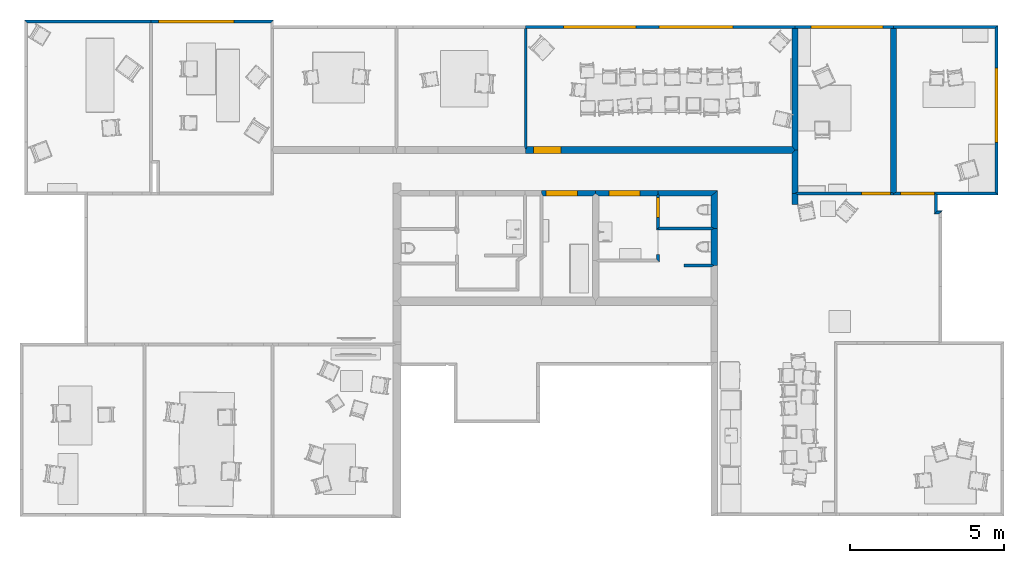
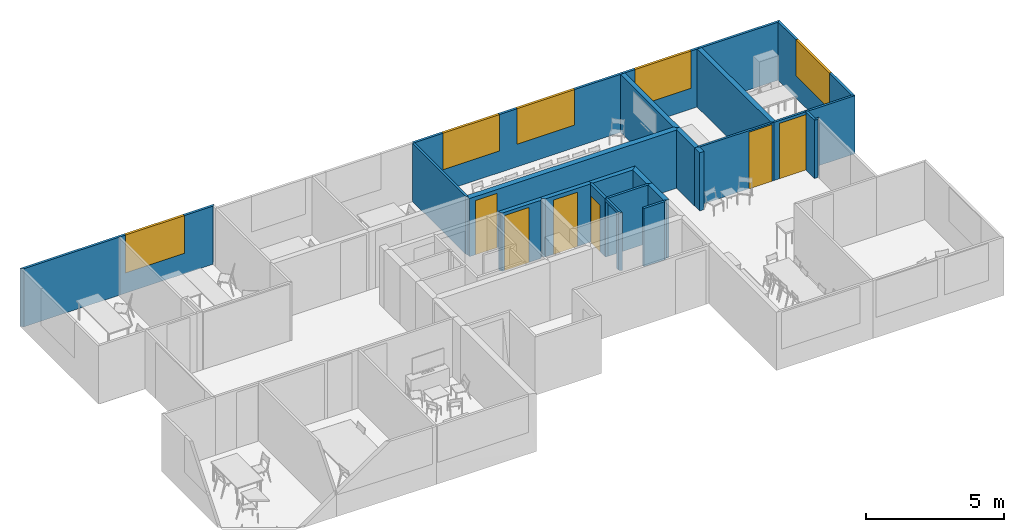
# One storey, part 4 of 25: 26 walls, 6 doors, 5 windows, 12 openings.
"""IFC2X3 building model written with IfcOpenShell, lengths in metres."""

import ifcopenshell
import ifcopenshell.guid

model = None  # the IFC model being written
_history = None  # IfcOwnerHistory: only IFC2X3 demands one
_inside = {}  # id of a spatial element -> (the spatial element, [elements in it])
_under = {}  # id of a project, library or spatial element -> (it, [spatial elements below it])
_declared = {}  # id of a project -> (the project, [libraries it declares])
_typed = {}  # id of a type object -> (the type object, [elements of that type])
_made_of = {}  # id of a material, layer set ... -> (it, [elements and type objects made of it])


def new_model(schema):
    """Start an empty IFC model of exactly this schema.

    Asked for "IFC4X3", IfcOpenShell would pick the latest addendum, in which some entities
    have other attributes; the version numbers below select the first issue.
    IFC2X3 requires an IfcOwnerHistory on every rooted entity: one is made here for all.
    """
    global model, _history
    if schema == "IFC4X3":
        model = ifcopenshell.file(schema_version=(4, 3, 0, 0))
    else:
        model = ifcopenshell.file(schema=schema)
    _inside.clear()
    _under.clear()
    _declared.clear()
    _typed.clear()
    _made_of.clear()
    _history = None
    if model.schema == "IFC2X3":
        org = make("IfcOrganization", Name="unknown")
        user = make(
            "IfcPersonAndOrganization",
            ThePerson=make("IfcPerson", FamilyName="unknown"),
            TheOrganization=org,
        )
        app = make(
            "IfcApplication",
            ApplicationDeveloper=org,
            Version="unknown",
            ApplicationFullName="unknown",
            ApplicationIdentifier="unknown",
        )
        _history = make(
            "IfcOwnerHistory",
            OwningUser=user,
            OwningApplication=app,
            ChangeAction="ADDED",
            CreationDate=0,
        )
    return model


def make(cls, **values):
    """One entity of the class cls with the attributes given. An attribute that is None is left unset."""
    return model.create_entity(
        cls, **{name: value for name, value in values.items() if value is not None}
    )


def rooted(cls, **values):
    """An entity with a GlobalId (a new one), such as an element, a storey or a relation."""
    return make(cls, GlobalId=ifcopenshell.guid.new(), OwnerHistory=_history, **values)


def si_unit(unit_type, name, prefix=None):
    """IfcSIUnit, for example si_unit("LENGTHUNIT", "METRE", prefix="MILLI")."""
    return make("IfcSIUnit", UnitType=unit_type, Prefix=prefix, Name=name)


def assignment(units):
    """IfcUnitAssignment: the units of a project."""
    return None if units is None else make("IfcUnitAssignment", Units=units)


def point(xyz):
    """IfcCartesianPoint."""
    return None if xyz is None else make("IfcCartesianPoint", Coordinates=xyz)


def direction(xyz):
    """IfcDirection."""
    return None if xyz is None else make("IfcDirection", DirectionRatios=xyz)


def frame(location, z_axis=None, x_axis=None):
    """IfcAxis2Placement3D, a coordinate frame: its origin and axes. An axis left out is left unset."""
    return make(
        "IfcAxis2Placement3D",
        Location=point(location),
        Axis=direction(z_axis),
        RefDirection=direction(x_axis),
    )


def origin_with_axes():
    """The frame at (0, 0, 0) with the z axis (0, 0, 1) and the x axis (1, 0, 0) written out."""
    return frame((0.0, 0.0, 0.0), z_axis=(0.0, 0.0, 1.0), x_axis=(1.0, 0.0, 0.0))


def place(relative_to, where):
    """IfcLocalPlacement: puts the frame where relative to a parent placement (None: the world)."""
    return make(
        "IfcLocalPlacement", PlacementRelTo=relative_to, RelativePlacement=where
    )


def context(
    kind, dimensions, precision=None, world=None, true_north=None, identifier=None
):
    """IfcGeometricRepresentationContext, for example the 3D "Model" context."""
    return make(
        "IfcGeometricRepresentationContext",
        ContextIdentifier=identifier,
        ContextType=kind,
        CoordinateSpaceDimension=dimensions,
        Precision=precision,
        WorldCoordinateSystem=world,
        TrueNorth=true_north,
    )


def subcontext(parent, identifier, kind, view, scale=None):
    """IfcGeometricRepresentationSubContext, for example "Body" below "Model"."""
    return make(
        "IfcGeometricRepresentationSubContext",
        ContextIdentifier=identifier,
        ContextType=kind,
        ParentContext=parent,
        TargetScale=scale,
        TargetView=view,
    )


def project(units=None, contexts=None):
    """IfcProject with its units and contexts."""
    return rooted(
        "IfcProject",
        Name="project",
        RepresentationContexts=contexts,
        UnitsInContext=assignment(units),
    )


def spatial(cls, under=None, at=None, **own):
    """A site, building, storey or space (cls), placed at a placement, below another one or the project."""
    s = rooted(cls, ObjectPlacement=at, **own)
    if under is not None:
        _under.setdefault(under.id(), (under, []))[1].append(s)
    return s


def polyline(points):
    """IfcPolyline through the points."""
    return make("IfcPolyline", Points=[point(p) for p in points])


def outline(outer, holes=None, kind="AREA"):
    """IfcArbitraryClosedProfileDef: a profile drawn as a closed curve; with holes, ...WithVoids."""
    if holes is None:
        return make("IfcArbitraryClosedProfileDef", ProfileType=kind, OuterCurve=outer)
    return make(
        "IfcArbitraryProfileDefWithVoids",
        ProfileType=kind,
        OuterCurve=outer,
        InnerCurves=holes,
    )


def extrude(swept, where, along, depth):
    """IfcExtrudedAreaSolid: the profile swept, set in the frame where, extruded along a direction by depth."""
    return make(
        "IfcExtrudedAreaSolid",
        SweptArea=swept,
        Position=where,
        ExtrudedDirection=direction(along),
        Depth=depth,
    )


def shape(context_of_items, identifier, shape_type, items):
    """IfcShapeRepresentation: the items that make up one representation, for example the "Body"."""
    return make(
        "IfcShapeRepresentation",
        ContextOfItems=context_of_items,
        RepresentationIdentifier=identifier,
        RepresentationType=shape_type,
        Items=items,
    )


def made_of(thing, what):
    """Note that an element or type object is made of a material, layer set ...; save() writes the relation."""
    if what is not None:
        _made_of.setdefault(what.id(), (what, []))[1].append(thing)
    return thing


def type_object(cls, material=None, **own):
    """A type object (cls), such as IfcWallType, which elements share."""
    return made_of(rooted(cls, **own), material)


def element(
    cls,
    number,
    at=None,
    inside=None,
    cuts=None,
    type_object=None,
    material=None,
    context=None,
    identifier="Body",
    shape_type=None,
    held_by="IfcProductDefinitionShape",
    body=None,
    shapes=None,
    **own,
):
    """One element of the class cls, such as IfcWall. Its Tag is "e" and its number.

    at: its placement. inside: the storey or other place that contains it. cuts: it is an
    opening in that element (IfcRelVoidsElement). A single representation is given by context,
    identifier, shape_type and body (its items); several are given by shapes. held_by: the class
    of the entity that holds the representations. save() writes the other relations.
    """
    e = rooted(cls, Tag="e%d" % number, ObjectPlacement=at, **own)
    if body is not None:
        shapes = [shape(context, identifier, shape_type, body)]
    if shapes is not None:
        e.Representation = make(held_by, Representations=shapes)
    if inside is not None:
        _inside.setdefault(inside.id(), (inside, []))[1].append(e)
    if cuts is not None:
        rooted(
            "IfcRelVoidsElement", RelatingBuildingElement=cuts, RelatedOpeningElement=e
        )
    if type_object is not None:
        _typed.setdefault(type_object.id(), (type_object, []))[1].append(e)
    return made_of(e, material)


def fill(opening, filler):
    """IfcRelFillsElement: the door or window that sits in an opening."""
    return rooted(
        "IfcRelFillsElement",
        RelatingOpeningElement=opening,
        RelatedBuildingElement=filler,
    )


def aggregate(whole, parts):
    """IfcRelAggregates: a whole, such as a stair, and the parts it consists of."""
    return rooted("IfcRelAggregates", RelatingObject=whole, RelatedObjects=parts)


def save(model, path):
    """Write the relations noted so far, then the file.

    IfcRelAggregates (storeys below a building ...), IfcRelContainedInSpatialStructure (elements
    in a storey), IfcRelDefinesByType, IfcRelAssociatesMaterial and IfcRelDeclares: one each for
    every whole, place, type object, material and project.
    """
    for whole, parts in _under.values():
        aggregate(whole, parts)
    for where, things in _inside.values():
        rooted(
            "IfcRelContainedInSpatialStructure",
            RelatedElements=things,
            RelatingStructure=where,
        )
    for kind, things in _typed.values():
        rooted("IfcRelDefinesByType", RelatedObjects=things, RelatingType=kind)
    for what, things in _made_of.values():
        rooted("IfcRelAssociatesMaterial", RelatedObjects=things, RelatingMaterial=what)
    for by, libraries in _declared.values():
        rooted("IfcRelDeclares", RelatingContext=by, RelatedDefinitions=libraries)
    model.write(path)


model = new_model("IFC2X3")

# Units and contexts
model_context = context("Model", 3, precision=1e-05, world=origin_with_axes(), true_north=direction((0.996, -0.093, 0.0)))
body_context = subcontext(model_context, "Body", "Model", "MODEL_VIEW")
ifc_project = project(units=[si_unit("LENGTHUNIT", "METRE"), si_unit("AREAUNIT", "SQUARE_METRE")], contexts=[model_context])

# Site, building, storey
site_placement = place(None, origin_with_axes())
site = spatial("IfcSite", under=ifc_project, at=site_placement, Name="Site", CompositionType="ELEMENT")
building_placement = place(site_placement, origin_with_axes())
building = spatial("IfcBuilding", under=site, at=building_placement, Name="Building", CompositionType="ELEMENT")
storey_placement = place(building_placement, frame((0.0, 0.0, 0.0500001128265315), z_axis=(0.0, 0.0, 1.0), x_axis=(1.0, 0.0, 0.0)))
storey = spatial("IfcBuildingStorey", under=building, at=storey_placement, Name="Story 0", CompositionType="ELEMENT", Elevation=0.0499999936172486)

# Wall, opening
wall_type_1 = type_object("IfcWallType", PredefinedType="STANDARD")
wall_1_placement = place(storey_placement, frame((18.5151849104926, 4.59033341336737, 0.0), z_axis=(0.0, 0.0, 1.0), x_axis=(1.0, 0.0, 0.0)))
wall_1 = element("IfcWallStandardCase", 1, at=wall_1_placement, inside=storey, type_object=wall_type_1, Name="Wall", context=body_context, shape_type="SweptSolid", body=[
    extrude(outline(polyline([(0.0, 0.0), (0.0499999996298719, 8.57389803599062e-09), (0.100000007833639, -0.0499999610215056), (0.100000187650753, -1.0986311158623), (1.71243240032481e-07, -0.998631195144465), (0.0, 0.0)])), origin_with_axes(), (0.0, 0.0, 1.0), 2.5729394),
])
opening_1_placement = place(wall_1_placement, frame((0.0, -0.049999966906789, 0.0), z_axis=(0.0, 0.0, 1.0), x_axis=(0.0, -1.00000000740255, 0.0)))
element("IfcOpeningElement", 2, at=opening_1_placement, cuts=wall_1, Name="OpeningElement", ObjectType="OPENING", context=body_context, shape_type="SweptSolid", body=[
    extrude(outline(polyline([(-2.19644113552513e-17, 0.0), (0.804700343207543, 0.0), (0.804700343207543, 2.45198288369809), (-2.19644113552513e-17, 2.45198288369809), (-2.19644113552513e-17, 0.0)])), frame((0.0, 0.0, 0.0), z_axis=(0.0, -1.0, 0.0), x_axis=(1.0, 0.0, 0.0)), (0.0, 0.0, -1.0), 0.100099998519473),
])

# Walls
wall_type_2 = type_object("IfcWallType", PredefinedType="STANDARD")
wall_2_placement = place(storey_placement, frame((20.2917804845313, 3.42640184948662, 0.0), z_axis=(0.0, 0.0, 1.0), x_axis=(1.0, 0.0, 0.0)))
element("IfcWallStandardCase", 3, at=wall_2_placement, inside=storey, type_object=wall_type_2, Name="Wall", context=body_context, shape_type="SweptSolid", body=[
    extrude(outline(polyline([(0.0, 0.0), (2.38406105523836e-07, 1.11393260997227), (0.101291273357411, 1.16393267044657), (0.202582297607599, 1.16393264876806), (0.202582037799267, -0.0500001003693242), (0.10129101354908, -0.0500000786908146), (0.0, 0.0)])), origin_with_axes(), (0.0, 0.0, 1.0), 2.5729394),
])
wall_type_3 = type_object("IfcWallType", PredefinedType="STANDARD")
wall_3_placement = place(storey_placement, frame((19.4136194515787, 3.32640253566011, 0.0), z_axis=(0.0, 0.0, 1.0), x_axis=(1.0, 0.0, 0.0)))
element("IfcWallStandardCase", 4, at=wall_3_placement, inside=storey, type_object=wall_type_3, Name="Wall", context=body_context, shape_type="SweptSolid", body=[
    extrude(outline(polyline([(0.0, 0.0), (7.80532545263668e-08, 0.0999999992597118), (0.878161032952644, 0.0999993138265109), (0.979452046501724, 0.0499992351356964), (0.878161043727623, -6.85433266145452e-07), (0.0, 0.0)])), origin_with_axes(), (0.0, 0.0, 1.0), 2.5729394),
])
wall_type_4 = type_object("IfcWallType", PredefinedType="STANDARD")
wall_4_placement = place(storey_placement, frame((18.6151849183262, 4.54033345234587, 0.0), z_axis=(0.0, 0.0, 1.0), x_axis=(1.0, 0.0, 0.0)))
element("IfcWallStandardCase", 5, at=wall_4_placement, inside=storey, type_object=wall_type_4, Name="Wall", context=body_context, shape_type="SweptSolid", body=[
    extrude(outline(polyline([(0.0, 0.0), (-0.0500000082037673, 0.0499999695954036), (8.39943226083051e-10, 0.099999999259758), (1.67659578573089, 0.100001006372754), (1.77788683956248, 0.050001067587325), (1.67659580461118, 1.0071130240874e-06), (0.0, 0.0)])), origin_with_axes(), (0.0, 0.0, 1.0), 2.5729394),
])
wall_type_5 = type_object("IfcWallType", PredefinedType="STANDARD")
wall_5_placement = place(storey_placement, frame((22.9254662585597, 5.36495264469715, 0.0), z_axis=(0.0, 0.0, 1.0), x_axis=(1.0, 0.0, 0.0)))
element("IfcWallStandardCase", 6, at=wall_5_placement, inside=storey, type_object=wall_type_5, Name="Wall", context=body_context, shape_type="SweptSolid", body=[
    extrude(outline(polyline([(0.0, 0.0), (1.45613221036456e-07, 0.363935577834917), (0.094740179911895, 0.363935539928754), (0.189480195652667, 0.31755322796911), (0.189480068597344, -7.58123270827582e-08), (0.0, 0.0)])), origin_with_axes(), (0.0, 0.0, 1.0), 2.5729394),
])

# Wall, opening, door
wall_type_6 = type_object("IfcWallType", PredefinedType="STANDARD")
wall_6_placement = place(storey_placement, frame((14.258046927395, 7.02928678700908, 0.0), z_axis=(0.0, 0.0, 1.0), x_axis=(1.0, 0.0, 0.0)))
wall_6 = element("IfcWallStandardCase", 7, at=wall_6_placement, inside=storey, type_object=wall_type_6, Name="Wall", context=body_context, shape_type="SweptSolid", body=[
    extrude(outline(polyline([(0.0, 0.0), (-4.16177954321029e-08, 0.114025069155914), (0.0463822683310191, 0.228050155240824), (8.66741881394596, 0.228053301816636), (8.76215888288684, 0.114028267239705), (8.66741889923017, 3.16350481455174e-06), (0.0, 0.0)])), origin_with_axes(), (0.0, 0.0, 1.0), 2.5729394),
])
opening_2_placement = place(wall_6_placement, frame((0.25352738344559, 0.0, 0.0), z_axis=(0.0, 0.0, 1.0), x_axis=(1.00000000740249, 0.0, 0.0)))
opening_2 = element("IfcOpeningElement", 8, at=opening_2_placement, cuts=wall_6, Name="OpeningElement", ObjectType="OPENING", context=body_context, shape_type="SweptSolid", body=[
    extrude(outline(polyline([(0.0, 0.0), (0.890961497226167, 0.0), (0.890961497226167, 2.40103436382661), (0.0, 2.40103436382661), (0.0, 0.0)])), frame((0.0, 0.0, 0.0), z_axis=(0.0, -1.0, 0.0), x_axis=(1.0, 0.0, 0.0)), (0.0, 0.0, -1.0), 0.228150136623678),
])
door_style_1 = type_object("IfcDoorStyle", Name="73a46bbc-a436-444a-8fb2-c920c5e2e9b5", ConstructionType="NOTDEFINED", OperationType="NOTDEFINED", ParameterTakesPrecedence=False, Sizeable=False)
door_1_placement = place(opening_2_placement, origin_with_axes())
door_1 = element("IfcDoor", 9, at=door_1_placement, inside=storey, type_object=door_style_1, Name="Door", OverallHeight=2.4010349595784, OverallWidth=0.890961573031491, context=body_context, shape_type="SweptSolid", body=[
    extrude(outline(polyline([(0.0, 0.0), (-0.890961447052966, 0.0), (-0.890961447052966, 2.40103439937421), (0.0, 2.40103439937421), (0.0, 0.0)])), frame((0.0, 0.228050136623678, 0.0), z_axis=(0.0, 1.0, 0.0), x_axis=(-1.0, 0.0, 0.0)), (0.0, 0.0, -1.0), 0.228050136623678),
])
fill(opening_2, door_1)

# Wall
wall_type_7 = type_object("IfcWallType", PredefinedType="STANDARD")
wall_7_placement = place(storey_placement, frame((20.2917807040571, 4.64033445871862, 0.0), z_axis=(0.0, 0.0, 1.0), x_axis=(1.0, 0.0, 0.0)))
element("IfcWallStandardCase", 10, at=wall_7_placement, inside=storey, type_object=wall_type_7, Name="Wall", context=body_context, shape_type="SweptSolid", body=[
    extrude(outline(polyline([(0.0, 0.0), (-5.91764596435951e-07, 1.00022926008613), (0.202581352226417, 1.17687616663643), (0.202582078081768, -0.0499998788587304), (0.101291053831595, -0.0499999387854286), (0.0, 0.0)])), origin_with_axes(), (0.0, 0.0, 1.0), 2.5729394),
])

# Wall, opening, door
wall_type_8 = type_object("IfcWallType", PredefinedType="STANDARD")
wall_8_placement = place(storey_placement, frame((23.1149464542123, 5.68250587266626, 0.0), z_axis=(0.0, 0.0, 1.0), x_axis=(1.0, 0.0, 0.0)))
wall_8 = element("IfcWallStandardCase", 11, at=wall_8_placement, inside=storey, type_object=wall_type_8, Name="Wall", context=body_context, shape_type="SweptSolid", body=[
    extrude(outline(polyline([(0.0, 0.0), (-0.0947400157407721, 0.0463823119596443), (-2.04190442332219e-09, 0.0927646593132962), (3.01657455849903, 0.0927652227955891), (3.11411432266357, 0.0463829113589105), (3.11411433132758, 5.8170225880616e-07), (0.0, 0.0)])), origin_with_axes(), (0.0, 0.0, 1.0), 2.5729394),
])
opening_3_placement = place(wall_8_placement, frame((2.06755146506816, 0.0, 0.0), z_axis=(0.0, 0.0, 1.0), x_axis=(1.00000000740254, 0.0, 0.0)))
opening_3 = element("IfcOpeningElement", 12, at=opening_3_placement, cuts=wall_8, Name="OpeningElement", ObjectType="OPENING", context=body_context, shape_type="SweptSolid", body=[
    extrude(outline(polyline([(0.0, 0.0), (0.949021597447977, 0.0), (0.949021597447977, 2.50352182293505), (0.0, 2.50352182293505), (0.0, 0.0)])), frame((0.0, 0.0, 0.0), z_axis=(0.0, -1.0, 0.0), x_axis=(1.0, 0.0, 0.0)), (0.0, 0.0, -1.0), 0.0928646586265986),
])
door_style_2 = type_object("IfcDoorStyle", Name="14c6a3be-2a06-480f-be3a-189aefb77c64", ConstructionType="NOTDEFINED", OperationType="NOTDEFINED", ParameterTakesPrecedence=False, Sizeable=False)
door_2_placement = place(opening_3_placement, origin_with_axes())
door_2 = element("IfcDoor", 13, at=door_2_placement, inside=storey, type_object=door_style_2, Name="Door", OverallHeight=2.50352186, OverallWidth=0.994197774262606, context=body_context, shape_type="SweptSolid", body=[
    extrude(outline(polyline([(0.0, 0.0), (-0.949021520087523, 0.0), (-0.949021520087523, 2.50352186), (0.0, 2.50352186), (0.0, 0.0)])), frame((0.0, 0.0927646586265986, 0.0), z_axis=(0.0, 1.0, 0.0), x_axis=(-1.0, 0.0, 0.0)), (0.0, 0.0, -1.0), 0.0927646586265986),
])
fill(opening_3, door_2)

wall_type_9 = type_object("IfcWallType", PredefinedType="STANDARD")
wall_9_placement = place(storey_placement, frame((14.8254874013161, 5.64056243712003, 0.0), z_axis=(0.0, 0.0, 1.0), x_axis=(1.0, 0.0, 0.0)))
wall_9 = element("IfcWallStandardCase", 14, at=wall_9_placement, inside=storey, type_object=wall_type_9, Name="Wall", context=body_context, shape_type="SweptSolid", body=[
    extrude(outline(polyline([(0.0, 0.0), (-0.0500000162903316, 0.088323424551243), (-0.0500000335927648, 0.176646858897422), (1.71128446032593, 0.176647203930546), (1.71128447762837, 0.0883237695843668), (1.61246493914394, 3.15879583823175e-07), (0.0, 0.0)])), origin_with_axes(), (0.0, 0.0, 1.0), 2.5729394),
])
opening_4_placement = place(wall_9_placement, frame((1.1256719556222, 0.176647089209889, 0.0), z_axis=(0.0, 0.0, 1.0), x_axis=(-1.00000000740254, 0.0, 0.0)))
opening_4 = element("IfcOpeningElement", 15, at=opening_4_placement, cuts=wall_9, Name="OpeningElement", ObjectType="OPENING", context=body_context, shape_type="SweptSolid", body=[
    extrude(outline(polyline([(0.0, 0.0), (1.03850236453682, 0.0), (1.03850236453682, 2.43175540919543), (0.0, 2.43175540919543), (0.0, 0.0)])), frame((0.0, 0.0, 0.0), z_axis=(0.0, -1.0, 0.0), x_axis=(1.0, 0.0, 0.0)), (0.0, 0.0, -1.0), 0.176746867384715),
])
door_style_3 = type_object("IfcDoorStyle", Name="3007114f-b811-4b10-a052-5c01ac19c1e7", ConstructionType="NOTDEFINED", OperationType="NOTDEFINED", ParameterTakesPrecedence=False, Sizeable=False)
door_3_placement = place(opening_4_placement, origin_with_axes())
door_3 = element("IfcDoor", 16, at=door_3_placement, inside=storey, type_object=door_style_3, Name="Door", OverallHeight=2.43175610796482, OverallWidth=1.03850250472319, context=body_context, shape_type="SweptSolid", body=[
    extrude(outline(polyline([(0.0, 0.0), (-1.03850229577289, 0.0), (-1.03850229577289, 2.43175544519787), (0.0, 2.43175544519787), (0.0, 0.0)])), frame((0.0, 0.176646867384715, 0.0), z_axis=(0.0, 1.0, 0.0), x_axis=(-1.0, 0.0, 0.0)), (0.0, 0.0, -1.0), 0.176646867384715),
])
fill(opening_4, door_3)

wall_type_10 = type_object("IfcWallType", PredefinedType="STANDARD")
wall_10_placement = place(storey_placement, frame((26.2290607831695, 5.68250645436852, 0.0), z_axis=(0.0, 0.0, 1.0), x_axis=(1.0, 0.0, 0.0)))
wall_10 = element("IfcWallStandardCase", 17, at=wall_10_placement, inside=storey, type_object=wall_type_10, Name="Wall", context=body_context, shape_type="SweptSolid", body=[
    extrude(outline(polyline([(0.0, 0.0), (-6.2935470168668e-09, 0.0463823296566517), (0.0975397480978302, 0.0927646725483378), (1.32923605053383, 0.092764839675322), (1.32923605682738, 0.0463825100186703), (1.329236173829, 1.80362043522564e-07), (0.0, 0.0)])), origin_with_axes(), (0.0, 0.0, 1.0), 2.5729394),
])
opening_5_placement = place(wall_10_placement, frame((0.218182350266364, 0.0, 0.0), z_axis=(0.0, 0.0, 1.0), x_axis=(1.00000000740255, 0.0, 0.0)))
opening_5 = element("IfcOpeningElement", 18, at=opening_5_placement, cuts=wall_10, Name="OpeningElement", ObjectType="OPENING", context=body_context, shape_type="SweptSolid", body=[
    extrude(outline(polyline([(0.0, 0.0), (1.11105350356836, 0.0), (1.11105350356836, 2.45178428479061), (0.0, 2.45178428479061), (0.0, 0.0)])), frame((0.0, 0.0, 0.0), z_axis=(0.0, -1.0, 0.0), x_axis=(1.0, 0.0, 0.0)), (0.0, 0.0, -1.0), 0.0928646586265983),
])
door_style_4 = type_object("IfcDoorStyle", Name="5135fc8b-d548-4c52-a799-416d36f16f8e", ConstructionType="NOTDEFINED", OperationType="NOTDEFINED", ParameterTakesPrecedence=False, Sizeable=False)
door_4_placement = place(opening_5_placement, origin_with_axes())
door_4 = element("IfcDoor", 19, at=door_4_placement, inside=storey, type_object=door_style_4, Name="Door", OverallHeight=2.45178514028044, OverallWidth=1.11105361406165, context=body_context, shape_type="SweptSolid", body=[
    extrude(outline(polyline([(0.0, 0.0), (-1.1110534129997, 0.0), (-1.1110534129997, 2.45178432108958), (0.0, 2.45178432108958), (0.0, 0.0)])), frame((0.0, 0.0927646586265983, 0.0), z_axis=(0.0, 1.0, 0.0), x_axis=(-1.0, 0.0, 0.0)), (0.0, 0.0, -1.0), 0.0927646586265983),
])
fill(opening_5, door_4)

# Wall
wall_type_11 = type_object("IfcWallType", PredefinedType="STANDARD")
wall_11_placement = place(storey_placement, frame((22.9254664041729, 5.72888814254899, 0.0), z_axis=(0.0, 0.0, 1.0), x_axis=(1.0, 0.0, 0.0)))
element("IfcWallStandardCase", 20, at=wall_11_placement, inside=storey, type_object=wall_type_11, Name="Wall", context=body_context, shape_type="SweptSolid", body=[
    extrude(outline(polyline([(0.0, 0.0), (-5.775477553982e-07, 1.3004018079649), (0.0947394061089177, 1.41442691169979), (0.189479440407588, 1.41442695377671), (0.189480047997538, 0.0463823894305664), (0.0947400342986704, 4.20769143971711e-08), (0.0, 0.0)])), origin_with_axes(), (0.0, 0.0, 1.0), 2.5729394),
])

# Wall, opening, door
wall_type_12 = type_object("IfcWallType", PredefinedType="STANDARD")
wall_12_placement = place(storey_placement, frame((16.635591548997, 5.6405628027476, 0.0), z_axis=(0.0, 0.0, 1.0), x_axis=(1.0, 0.0, 0.0)))
wall_12 = element("IfcWallStandardCase", 21, at=wall_12_placement, inside=storey, type_object=wall_type_12, Name="Wall", context=body_context, shape_type="SweptSolid", body=[
    extrude(outline(polyline([(0.0, 0.0), (-0.0988196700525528, 0.0883234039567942), (-0.0988196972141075, 0.176646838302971), (1.92959354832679, 0.176647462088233), (1.92959357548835, 0.0883240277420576), (1.87959355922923, 5.78019674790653e-07), (0.0, 0.0)])), origin_with_axes(), (0.0, 0.0, 1.0), 2.5729394),
])
opening_6_placement = place(wall_12_placement, frame((1.34609444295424, 0.176647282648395, 0.0), z_axis=(0.0, 0.0, 1.0), x_axis=(-1.00000000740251, 0.0, 0.0)))
opening_6 = element("IfcOpeningElement", 22, at=opening_6_placement, cuts=wall_12, Name="OpeningElement", ObjectType="OPENING", context=body_context, shape_type="SweptSolid", body=[
    extrude(outline(polyline([(0.0, 0.0), (1.01151418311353, 0.0), (1.01151418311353, 2.39816939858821), (0.0, 2.39816939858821), (0.0, 0.0)])), frame((0.0, 0.0, 0.0), z_axis=(0.0, -1.0, 0.0), x_axis=(1.0, 0.0, 0.0)), (0.0, 0.0, -1.0), 0.176746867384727),
])
door_style_5 = type_object("IfcDoorStyle", Name="8d5ac8cc-9b1b-4fde-b64d-d58136c09b59", ConstructionType="NOTDEFINED", OperationType="NOTDEFINED", ParameterTakesPrecedence=False, Sizeable=False)
door_5_placement = place(opening_6_placement, origin_with_axes())
door_5 = element("IfcDoor", 23, at=door_5_placement, inside=storey, type_object=door_style_5, Name="Door", OverallHeight=2.39817009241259, OverallWidth=1.01151431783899, context=body_context, shape_type="SweptSolid", body=[
    extrude(outline(polyline([(0.0, 0.0), (-1.0115141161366, 0.0), (-1.0115141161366, 2.3981694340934), (0.0, 2.3981694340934), (0.0, 0.0)])), frame((0.0, 0.176646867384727, 0.0), z_axis=(0.0, 1.0, 0.0), x_axis=(-1.0, 0.0, 0.0)), (0.0, 0.0, -1.0), 0.176646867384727),
])
fill(opening_6, door_5)

# Walls
wall_type_13 = type_object("IfcWallType", PredefinedType="STANDARD")
wall_13_placement = place(storey_placement, frame((18.615185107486, 5.64056340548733, 0.0), z_axis=(0.0, 0.0, 1.0), x_axis=(1.0, 0.0, 0.0)))
element("IfcWallStandardCase", 24, at=wall_13_placement, inside=storey, type_object=wall_type_13, Name="Wall", context=body_context, shape_type="SweptSolid", body=[
    extrude(outline(polyline([(0.0, 0.0), (-0.0499999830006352, 0.0883234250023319), (-0.0499999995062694, 0.176646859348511), (1.87917694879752, 0.17664721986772), (1.6765950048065, 3.13317422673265e-07), (0.0, 0.0)])), origin_with_axes(), (0.0, 0.0, 1.0), 2.5729394),
])
wall_type_14 = type_object("IfcWallType", PredefinedType="STANDARD")
wall_14_placement = place(storey_placement, frame((27.5582985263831, 5.06036386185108, 0.0), z_axis=(0.0, 0.0, 1.0), x_axis=(1.0, 0.0, 0.0)))
element("IfcWallStandardCase", 25, at=wall_14_placement, inside=storey, type_object=wall_type_14, Name="Wall", context=body_context, shape_type="SweptSolid", body=[
    extrude(outline(polyline([(0.0, 0.0), (0.0999997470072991, 0.0999992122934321), (0.245564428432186, 0.0999980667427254), (0.145564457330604, -1.145548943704e-06), (0.0, 0.0)])), origin_with_axes(), (0.0, 0.0, 1.0), 2.5729394),
])
wall_type_15 = type_object("IfcWallType", PredefinedType="STANDARD")
wall_15_placement = place(storey_placement, frame((27.5582985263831, 5.06036386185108, 0.0), z_axis=(0.0, 0.0, 1.0), x_axis=(1.0, 0.0, 0.0)))
element("IfcWallStandardCase", 26, at=wall_15_placement, inside=storey, type_object=wall_type_15, Name="Wall", context=body_context, shape_type="SweptSolid", body=[
    extrude(outline(polyline([(0.0, 0.0), (-1.56938467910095e-06, 0.622142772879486), (-1.68638630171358e-06, 0.668525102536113), (0.0999984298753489, 0.622142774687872), (0.0999997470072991, 0.0999992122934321), (0.0, 0.0)])), origin_with_axes(), (0.0, 0.0, 1.0), 2.5729394),
])

# Wall, opening, door
wall_type_16 = type_object("IfcWallType", PredefinedType="STANDARD")
wall_16_placement = place(storey_placement, frame((18.5151849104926, 4.5903334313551, 0.0), z_axis=(0.0, 0.0, 1.0), x_axis=(1.0, 0.0, 0.0)))
wall_16 = element("IfcWallStandardCase", 27, at=wall_16_placement, inside=storey, type_object=wall_type_16, Name="Wall", context=body_context, shape_type="SweptSolid", body=[
    extrude(outline(polyline([(0.0, 0.0), (1.97733676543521e-07, 1.05022994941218), (0.0500002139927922, 1.13855339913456), (0.100000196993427, 1.05022997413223), (0.100000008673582, 0.0500000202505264), (0.0499999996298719, -9.41382793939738e-09), (0.0, 0.0)])), origin_with_axes(), (0.0, 0.0, 1.0), 2.5729394),
])
opening_7_placement = place(wall_16_placement, frame((0.0, 1.00794408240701, 0.0), z_axis=(0.0, 0.0, 1.0), x_axis=(0.0, -1.00000000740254, 0.0)))
opening_7 = element("IfcOpeningElement", 28, at=opening_7_placement, cuts=wall_16, Name="OpeningElement", ObjectType="OPENING", context=body_context, shape_type="SweptSolid", body=[
    extrude(outline(polyline([(-2.49185234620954e-16, 0.0), (0.657400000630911, 0.0), (0.657400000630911, 2.05067081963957), (-2.49185234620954e-16, 2.05067081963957), (-2.49185234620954e-16, 0.0)])), frame((0.0, 0.0, 0.0), z_axis=(0.0, -1.0, 0.0), x_axis=(1.0, 0.0, 0.0)), (0.0, 0.0, -1.0), 0.100099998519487),
])
door_style_6 = type_object("IfcDoorStyle", Name="a4bd18f5-f418-4394-9a0f-b45b4777379e", ConstructionType="NOTDEFINED", OperationType="NOTDEFINED", ParameterTakesPrecedence=False, Sizeable=False)
door_6_placement = place(opening_7_placement, origin_with_axes())
door_6 = element("IfcDoor", 29, at=door_6_placement, inside=storey, type_object=door_style_6, Name="Door", OverallHeight=2.05067085, OverallWidth=0.657399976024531, context=body_context, shape_type="SweptSolid", body=[
    extrude(outline(polyline([(-4.34173842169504e-16, 0.0), (-0.657400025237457, 0.0), (-0.657400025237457, 2.05067085), (-4.34173842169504e-16, 2.05067085), (-4.34173842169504e-16, 0.0)])), frame((0.0, 0.0999999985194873, 0.0), z_axis=(0.0, 1.0, 0.0), x_axis=(-1.0, 0.0, 0.0)), (0.0, 0.0, -1.0), 0.0999999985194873),
])
fill(opening_7, door_6)

# Wall, opening, window
wall_type_17 = type_object("IfcWallType", PredefinedType="STANDARD")
wall_17_placement = place(storey_placement, frame((2.11040103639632, 11.2697735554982, 0.0), z_axis=(0.0, 0.0, 1.0), x_axis=(1.0, 0.0, 0.0)))
wall_17 = element("IfcWallStandardCase", 30, at=wall_17_placement, inside=storey, type_object=wall_type_17, Name="Wall", context=body_context, shape_type="SweptSolid", body=[
    extrude(outline(polyline([(0.0, 0.0), (-0.0463823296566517, -8.69257021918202e-09), (-0.0463823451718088, 0.0999999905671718), (3.94710436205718, 0.100000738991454), (3.85411043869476, 7.22303603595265e-07), (0.0, 0.0)])), origin_with_axes(), (0.0, 0.0, 1.0), 2.5729394),
])
opening_8_placement = place(wall_17_placement, frame((0.204486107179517, 0.0, 0.901117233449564), z_axis=(0.0, 0.0, 1.0), x_axis=(1.00000000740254, 0.0, 0.0)))
opening_8 = element("IfcOpeningElement", 31, at=opening_8_placement, cuts=wall_17, Name="OpeningElement", ObjectType="OPENING", context=body_context, shape_type="SweptSolid", body=[
    extrude(outline(polyline([(0.0, 0.0), (2.45018399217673, 0.0), (2.45018399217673, 1.67182200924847), (0.0, 1.67182200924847), (0.0, 0.0)])), frame((0.0, 0.0, 0.0), z_axis=(0.0, -1.0, 0.0), x_axis=(1.0, 0.0, 0.0)), (0.0, 0.0, -1.0), 0.100099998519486),
])
window_style_1 = type_object("IfcWindowStyle", Name="d3fddfdb-2f21-4f91-8887-1419ba0eb38c", ConstructionType="ALUMINIUM", OperationType="SINGLE_PANEL", ParameterTakesPrecedence=True, Sizeable=True)
window_1_placement = place(opening_8_placement, origin_with_axes())
window_1 = element("IfcWindow", 32, at=window_1_placement, inside=storey, type_object=window_style_1, Name="Window", OverallHeight=1.5, OverallWidth=0.5, context=body_context, shape_type="SweptSolid", body=[
    extrude(outline(polyline([(0.0, 0.0), (-2.4501838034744, 0.0), (-2.4501838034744, 1.671822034), (0.0, 1.671822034), (0.0, 0.0)])), frame((0.0, 0.0999999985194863, 0.0), z_axis=(0.0, 1.0, 0.0), x_axis=(-1.0, 0.0, 0.0)), (0.0, 0.0, -1.0), 0.0999999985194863),
])
fill(opening_8, window_1)

# Walls
wall_type_18 = type_object("IfcWallType", PredefinedType="STANDARD")
wall_18_placement = place(storey_placement, frame((26.3265999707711, 11.0953670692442, 0.0), z_axis=(0.0, 0.0, 1.0), x_axis=(1.0, 0.0, 0.0)))
element("IfcWallStandardCase", 33, at=wall_18_placement, inside=storey, type_object=wall_type_18, Name="Wall", context=body_context, shape_type="SweptSolid", body=[
    extrude(outline(polyline([(0.0, 0.0), (-0.0975397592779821, -4.84280189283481e-08), (-0.0975397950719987, 0.0999999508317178), (3.29669341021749, 0.100001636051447), (3.19669347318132, 1.58714214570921e-06), (0.0, 0.0)])), origin_with_axes(), (0.0, 0.0, 1.0), 2.5729394),
])
wall_type_19 = type_object("IfcWallType", PredefinedType="STANDARD")
wall_19_placement = place(storey_placement, frame((27.6582969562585, 5.68250663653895, 0.0), z_axis=(0.0, 0.0, 1.0), x_axis=(1.0, 0.0, 0.0)))
element("IfcWallStandardCase", 34, at=wall_19_placement, inside=storey, type_object=wall_type_19, Name="Wall", context=body_context, shape_type="SweptSolid", body=[
    extrude(outline(polyline([(0.0, 0.0), (-0.100000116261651, 0.0463823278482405), (-0.100000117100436, 0.0927646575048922), (1.86499979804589, 0.0927646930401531), (1.96499985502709, 3.55352600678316e-08), (0.0, 0.0)])), origin_with_axes(), (0.0, 0.0, 1.0), 2.5729394),
])
wall_type_20 = type_object("IfcWallType", PredefinedType="STANDARD")
wall_20_placement = place(storey_placement, frame((26.1315204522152, 11.0953669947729, 0.0), z_axis=(0.0, 0.0, 1.0), x_axis=(1.0, 0.0, 0.0)))
element("IfcWallStandardCase", 35, at=wall_20_placement, inside=storey, type_object=wall_type_20, Name="Wall", context=body_context, shape_type="SweptSolid", body=[
    extrude(outline(polyline([(0.0, 0.0), (0.0975397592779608, 2.60432226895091e-08), (0.195079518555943, 7.44712416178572e-08), (0.195080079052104, -5.32009586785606), (0.0975403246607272, -5.36647821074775), (5.60496182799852e-07, -5.32009589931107), (0.0, 0.0)])), origin_with_axes(), (0.0, 0.0, 1.0), 2.5729394),
])

# Wall, opening, window
wall_type_21 = type_object("IfcWallType", PredefinedType="STANDARD")
wall_21_placement = place(storey_placement, frame((29.5232934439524, 11.0953686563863, 0.0), z_axis=(0.0, 0.0, 1.0), x_axis=(1.0, 0.0, 0.0)))
wall_21 = element("IfcWallStandardCase", 36, at=wall_21_placement, inside=storey, type_object=wall_type_21, Name="Wall", context=body_context, shape_type="SweptSolid", body=[
    extrude(outline(polyline([(0.0, 0.0), (0.0999999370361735, 0.100000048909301), (0.100003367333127, -5.4128619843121), (3.3103519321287e-06, -5.32009732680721), (0.0, 0.0)])), origin_with_axes(), (0.0, 0.0, 1.0), 2.5729394),
])
opening_9_placement = place(wall_21_placement, frame((0.0, -1.29066511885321, 0.978742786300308), z_axis=(0.0, 0.0, 1.0), x_axis=(0.0, -1.00000000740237, 0.0)))
opening_9 = element("IfcOpeningElement", 37, at=opening_9_placement, cuts=wall_21, Name="OpeningElement", ObjectType="OPENING", context=body_context, shape_type="SweptSolid", body=[
    extrude(outline(polyline([(-6.23324769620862e-16, 0.0), (2.42700818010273, 0.0), (2.42700818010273, 1.59419645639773), (-6.23324769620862e-16, 1.59419645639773), (-6.23324769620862e-16, 0.0)])), frame((0.0, 0.0, 0.0), z_axis=(0.0, -1.0, 0.0), x_axis=(1.0, 0.0, 0.0)), (0.0, 0.0, -1.0), 0.100099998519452),
])
window_style_2 = type_object("IfcWindowStyle", Name="4f96339d-afc5-4a9d-8d26-24ae5e889488", ConstructionType="ALUMINIUM", OperationType="SINGLE_PANEL", ParameterTakesPrecedence=True, Sizeable=True)
window_2_placement = place(opening_9_placement, origin_with_axes())
window_2 = element("IfcWindow", 38, at=window_2_placement, inside=storey, type_object=window_style_2, Name="Window", OverallHeight=1.5, OverallWidth=0.5, context=body_context, shape_type="SweptSolid", body=[
    extrude(outline(polyline([(-7.63591731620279e-16, 0.0), (-2.4270083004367, 0.0), (-2.4270083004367, 1.59419648), (-7.63591731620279e-16, 1.59419648), (-7.63591731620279e-16, 0.0)])), frame((0.0, 0.0999999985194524, 0.0), z_axis=(0.0, 1.0, 0.0), x_axis=(-1.0, 0.0, 0.0)), (0.0, 0.0, -1.0), 0.0999999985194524),
])
fill(opening_9, window_2)

# Wall
wall_type_22 = type_object("IfcWallType", PredefinedType="STANDARD")
wall_22_placement = place(storey_placement, frame((22.9254645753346, 11.0952564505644, 0.0), z_axis=(0.0, 0.0, 1.0), x_axis=(1.0, 0.0, 0.0)))
element("IfcWallStandardCase", 39, at=wall_22_placement, inside=storey, type_object=wall_type_22, Name="Wall", context=body_context, shape_type="SweptSolid", body=[
    extrude(outline(polyline([(0.0, 0.0), (0.0947400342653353, 0.000109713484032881), (0.189480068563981, 0.000109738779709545), (0.189481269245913, -3.95194136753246), (0.0947412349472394, -3.95194139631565), (1.16600635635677e-06, -3.83791636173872), (0.0, 0.0)])), origin_with_axes(), (0.0, 0.0, 1.0), 2.5729394),
])

# Wall, opening, window
wall_type_23 = type_object("IfcWallType", PredefinedType="STANDARD")
wall_23_placement = place(storey_placement, frame((23.1149446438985, 11.0953661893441, 0.0), z_axis=(0.0, 0.0, 1.0), x_axis=(1.0, 0.0, 0.0)))
wall_23 = element("IfcWallStandardCase", 40, at=wall_23_placement, inside=storey, type_object=wall_type_23, Name="Wall", context=body_context, shape_type="SweptSolid", body=[
    extrude(outline(polyline([(0.0, 0.0), (-0.0947400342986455, -2.52956766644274e-08), (-0.0947400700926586, 0.0999999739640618), (3.11411553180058, 0.100000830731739), (3.11411556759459, 8.31472002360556e-07), (3.01657580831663, 8.05428779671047e-07), (0.0, 0.0)])), origin_with_axes(), (0.0, 0.0, 1.0), 2.5729394),
])
opening_10_placement = place(wall_23_placement, frame((0.419648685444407, 0.0, 0.924402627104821), z_axis=(0.0, 0.0, 1.0), x_axis=(1.00000000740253, 0.0, 0.0)))
opening_10 = element("IfcOpeningElement", 41, at=opening_10_placement, cuts=wall_23, Name="OpeningElement", ObjectType="OPENING", context=body_context, shape_type="SweptSolid", body=[
    extrude(outline(polyline([(0.0, 0.0), (2.34457790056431, 0.0), (2.34457790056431, 1.64853661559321), (0.0, 1.64853661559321), (0.0, 0.0)])), frame((0.0, 0.0, 0.0), z_axis=(0.0, -1.0, 0.0), x_axis=(1.0, 0.0, 0.0)), (0.0, 0.0, -1.0), 0.100099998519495),
])
window_style_3 = type_object("IfcWindowStyle", Name="e1ab8233-afbf-4d3d-ace0-4ebfa065b982", ConstructionType="ALUMINIUM", OperationType="SINGLE_PANEL", ParameterTakesPrecedence=True, Sizeable=True)
window_3_placement = place(opening_10_placement, origin_with_axes())
window_3 = element("IfcWindow", 42, at=window_3_placement, inside=storey, type_object=window_style_3, Name="Window", OverallHeight=1.5, OverallWidth=0.5, context=body_context, shape_type="SweptSolid", body=[
    extrude(outline(polyline([(0.0, 0.0), (-2.34457766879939, 0.0), (-2.34457766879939, 1.64853664), (0.0, 1.64853664), (0.0, 0.0)])), frame((0.0, 0.0999999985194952, 0.0), z_axis=(0.0, 1.0, 0.0), x_axis=(-1.0, 0.0, 0.0)), (0.0, 0.0, -1.0), 0.0999999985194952),
])
fill(opening_10, window_3)

# Walls
wall_type_24 = type_object("IfcWallType", PredefinedType="STANDARD")
wall_24_placement = place(storey_placement, frame((-1.95416717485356, 11.2697727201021, 0.0), z_axis=(0.0, 0.0, 1.0), x_axis=(1.0, 0.0, 0.0)))
element("IfcWallStandardCase", 43, at=wall_24_placement, inside=storey, type_object=wall_type_24, Name="Wall", context=body_context, shape_type="SweptSolid", body=[
    extrude(outline(polyline([(0.0, 0.0), (-0.100000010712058, 0.0999999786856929), (4.01818585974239, 0.100000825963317), (4.01818588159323, 8.26703574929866e-07), (3.97180355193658, 8.17160850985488e-07), (0.0, 0.0)])), origin_with_axes(), (0.0, 0.0, 1.0), 2.5729394),
])
wall_type_25 = type_object("IfcWallType", PredefinedType="STANDARD")
wall_25_placement = place(storey_placement, frame((14.2116638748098, 11.0852191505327, 0.0), z_axis=(0.0, 0.0, 1.0), x_axis=(1.0, 0.0, 0.0)))
element("IfcWallStandardCase", 44, at=wall_25_placement, inside=storey, type_object=wall_type_25, Name="Wall", context=body_context, shape_type="SweptSolid", body=[
    extrude(outline(polyline([(0.0, 0.0), (0.0463823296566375, 1.56423460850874e-08), (0.0927646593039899, 5.3728595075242e-05), (0.0927653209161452, -3.82788220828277), (0.0463830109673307, -3.94190729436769), (6.61602831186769e-07, -3.82788224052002), (0.0, 0.0)])), origin_with_axes(), (0.0, 0.0, 1.0), 2.5729394),
])

# Wall, openings, windows
wall_type_26 = type_object("IfcWallType", PredefinedType="STANDARD")
wall_26_placement = place(storey_placement, frame((14.3044285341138, 11.0852728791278, 0.0), z_axis=(0.0, 0.0, 1.0), x_axis=(1.0, 0.0, 0.0)))
wall_26 = element("IfcWallStandardCase", 45, at=wall_26_placement, inside=storey, type_object=wall_type_26, Name="Wall", context=body_context, shape_type="SweptSolid", body=[
    extrude(outline(polyline([(0.0, 0.0), (-0.0463823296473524, -5.37129527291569e-05), (-0.0464981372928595, 0.0999462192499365), (8.71566026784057, 0.110093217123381), (8.71577607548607, 0.0100932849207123), (8.62103604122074, 0.00998357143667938), (0.0, 0.0)])), origin_with_axes(), (0.0, 0.0, 1.0), 2.5729394),
])
opening_11_placement = place(wall_26_placement, frame((1.18994754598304, 0.00137801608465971, 0.9626063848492), z_axis=(0.0, 0.0, 1.0), x_axis=(0.999999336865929, 0.00115804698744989, 0.0)))
opening_11 = element("IfcOpeningElement", 46, at=opening_11_placement, cuts=wall_26, Name="OpeningElement", ObjectType="OPENING", context=body_context, shape_type="SweptSolid", body=[
    extrude(outline(polyline([(1.77635683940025e-15, 0.0), (2.35906108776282, 0.0), (2.35906108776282, 1.61033285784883), (1.77635683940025e-15, 1.61033285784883), (1.77635683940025e-15, 0.0)])), frame((0.0, 0.0, 0.0), z_axis=(0.0, -1.0, 0.0), x_axis=(1.0, 0.0, 0.0)), (0.0, 0.0, -1.0), 0.100099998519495),
])
opening_12_placement = place(wall_26_placement, frame((4.28379242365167, 0.00496083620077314, 1.00129458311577), z_axis=(0.0, 0.0, 1.0), x_axis=(0.999999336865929, 0.00115804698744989, 0.0)))
opening_12 = element("IfcOpeningElement", 47, at=opening_12_placement, cuts=wall_26, Name="OpeningElement", ObjectType="OPENING", context=body_context, shape_type="SweptSolid", body=[
    extrude(outline(polyline([(0.0, 0.0), (2.41707098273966, 0.0), (2.41707098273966, 1.57164465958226), (0.0, 1.57164465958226), (0.0, 0.0)])), frame((0.0, 0.0, 0.0), z_axis=(0.0, -1.0, 0.0), x_axis=(1.0, 0.0, 0.0)), (0.0, 0.0, -1.0), 0.100099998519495),
])
window_style_4 = type_object("IfcWindowStyle", Name="c8fb9be3-d937-48af-a6c9-37c933cab449", ConstructionType="ALUMINIUM", OperationType="SINGLE_PANEL", ParameterTakesPrecedence=True, Sizeable=True)
window_4_placement = place(opening_11_placement, origin_with_axes())
window_4 = element("IfcWindow", 48, at=window_4_placement, inside=storey, type_object=window_style_4, Name="Window", OverallHeight=1.5, OverallWidth=0.5, context=body_context, shape_type="SweptSolid", body=[
    extrude(outline(polyline([(0.0, 0.0), (-2.35906088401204, 0.0), (-2.35906088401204, 1.61033288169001), (0.0, 1.61033288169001), (0.0, 0.0)])), frame((0.0, 0.0999999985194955, 0.0), z_axis=(0.0, 1.0, 0.0), x_axis=(-1.0, 0.0, 0.0)), (0.0, 0.0, -1.0), 0.0999999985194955),
])
fill(opening_11, window_4)
window_style_5 = type_object("IfcWindowStyle", Name="1b399d99-1511-45c9-82ff-564fd46a904b", ConstructionType="ALUMINIUM", OperationType="SINGLE_PANEL", ParameterTakesPrecedence=True, Sizeable=True)
window_5_placement = place(opening_12_placement, origin_with_axes())
window_5 = element("IfcWindow", 49, at=window_5_placement, inside=storey, type_object=window_style_5, Name="Window", OverallHeight=1.5, OverallWidth=0.5, context=body_context, shape_type="SweptSolid", body=[
    extrude(outline(polyline([(0.0, 0.0), (-2.4170707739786, 0.0), (-2.4170707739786, 1.57164468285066), (0.0, 1.57164468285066), (0.0, 0.0)])), frame((0.0, 0.0999999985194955, 0.0), z_axis=(0.0, 1.0, 0.0), x_axis=(-1.0, 0.0, 0.0)), (0.0, 0.0, -1.0), 0.0999999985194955),
])
fill(opening_12, window_5)

save(model, "model.ifc")
